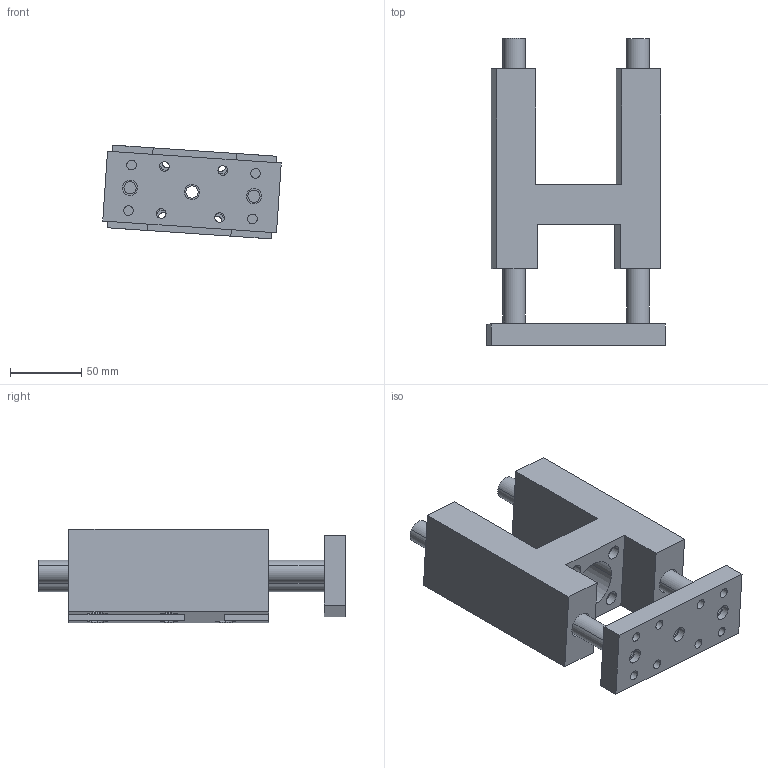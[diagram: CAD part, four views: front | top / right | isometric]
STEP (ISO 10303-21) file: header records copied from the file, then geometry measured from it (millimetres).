
FILE_DESCRIPTION (( 'STEP AP214' ), '1' );
FILE_NAME ('RHY_40.STEP', '2021-10-24T06:19:27', ( '' ), ( '' ), 'SwSTEP 2.0', 'SolidWorks 2021', '' );
FILE_SCHEMA (( 'AUTOMOTIVE_DESIGN' ));
Length unit declared in the file: millimetre
Products named in the file (4): 40H; 16 klavuz mili; RHY_40; 40h tabla
Assembly tree (4 placements, depth 2):
  RHY_40
    40h tabla
    16 klavuz mili  x2
    40H
Bounding box: 125.03 x 215 x 65.63 mm (x, y, z)
Volume: 601444.6 mm3; surface area: 123022 mm2
Topology: 4 solids, 4 shells, 112 faces, 264 edges, 176 vertices
Faces by surface type: cylinder 72, plane 40
Entity records: 3612 total; most frequent: DIRECTION 628, CARTESIAN_POINT 545, ORIENTED_EDGE 516, EDGE_CURVE 258, AXIS2_PLACEMENT_3D 255, VERTEX_POINT 172, EDGE_LOOP 160, CIRCLE 140
